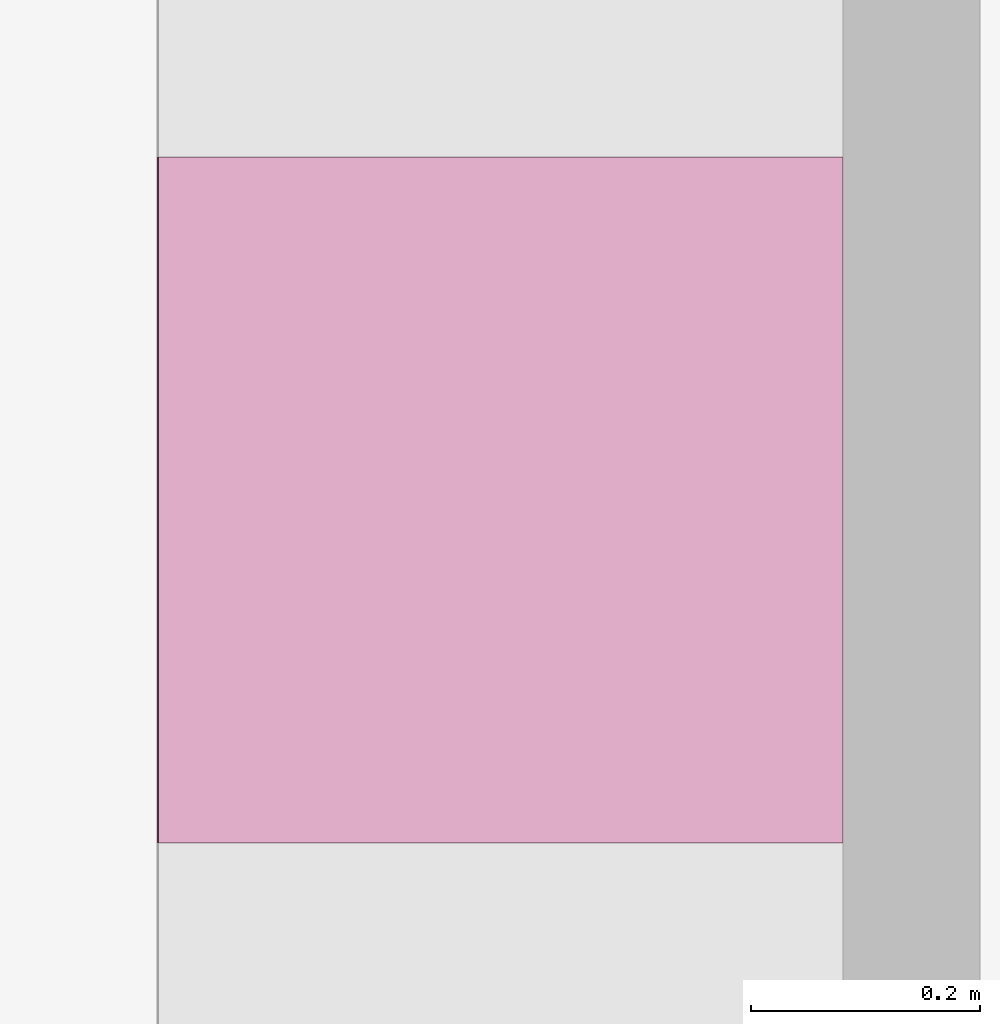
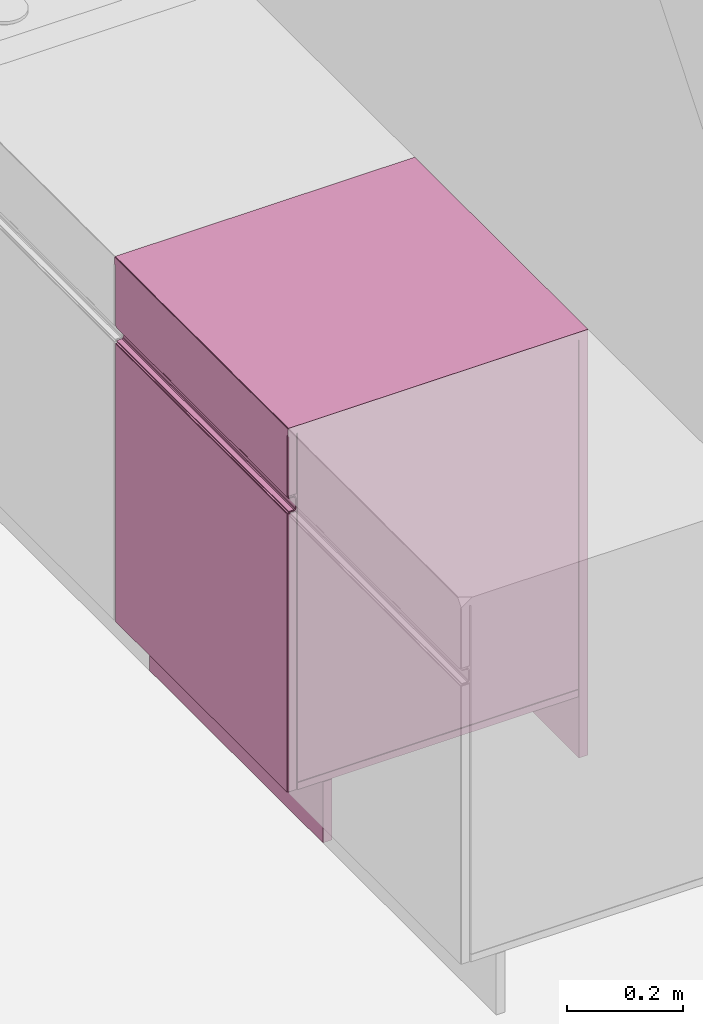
"""IFC4 building model written with IfcOpenShell, lengths in metres."""

from ifc_helpers import new_model, entity, si_unit, converted_unit, derived_unit, frame, origin, place, context, subcontext, project, spatial, faceted_brep, element, save


model = new_model("IFC4")

# Units and contexts
model_context = context("Model", 3, precision=1e-05, world=origin())
body_context = subcontext(model_context, "Body", "Model", "MODEL_VIEW")
ifc_project = project(units=[si_unit("LENGTHUNIT", "METRE"), si_unit("AREAUNIT", "SQUARE_METRE"), si_unit("VOLUMEUNIT", "CUBIC_METRE"), si_unit("MASSUNIT", "GRAM", prefix="KILO"), converted_unit("PLANEANGLEUNIT", "DEGREE", entity("IfcPlaneAngleMeasure", 0.0174532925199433), si_unit("PLANEANGLEUNIT", "RADIAN"), dimensions=[0, 0, 0, 0, 0, 0, 0]), derived_unit("THERMALTRANSMITTANCEUNIT", [(si_unit("POWERUNIT", "WATT"), 1), (si_unit("THERMODYNAMICTEMPERATUREUNIT", "KELVIN"), -1), (si_unit("LENGTHUNIT", "METRE"), -2)]), derived_unit("VOLUMETRICFLOWRATEUNIT", [(si_unit("LENGTHUNIT", "METRE"), 3), (converted_unit("TIMEUNIT", "hour", entity("IfcTimeMeasure", 3600.0), si_unit("TIMEUNIT", "SECOND"), dimensions=[0, 0, 1, 0, 0, 0, 0]), -1), (si_unit("LENGTHUNIT", "METRE"), -1)])], contexts=[model_context])

# Building, storeys
building_placement = place(None, origin())
building = spatial("IfcBuilding", under=ifc_project, at=building_placement, Name="HABITATGE PLURIFAMILIAR", CompositionType="ELEMENT")
storey_1_placement = place(building_placement, frame((0.0, 0.0, 3.35)))
storey_1 = spatial("IfcBuildingStorey", under=building, at=storey_1_placement, Name="PLANTA  ALTELL", CompositionType="ELEMENT", Elevation=3.35)
storey_2_placement = place(storey_1_placement, origin())
storey_2 = spatial("IfcBuildingStorey", under=storey_1, at=storey_2_placement, Name="NOU", CompositionType="PARTIAL")

# Furniture
furniture_placement = place(storey_2_placement, frame((406.271931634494, 20.9195914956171, 0.0)))
element("IfcFurniture", 1, at=furniture_placement, inside=storey_2, Name="Taulells_PA", context=body_context, shape_type="Brep", body=[
    faceted_brep([(0.600000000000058, 0.0, 0.0), (0.600000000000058, 0.600000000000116, 0.0), (0.582000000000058, 0.600000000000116, 0.0), (0.582000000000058, 0.0, 0.0), (0.582000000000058, 0.0, 0.883800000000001), (0.582000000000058, 0.600000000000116, 0.883800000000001), (0.600000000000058, 0.600000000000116, 0.883800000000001), (0.600000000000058, 0.0, 0.883800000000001)], [[[0, 1, 2, 3]], [[4, 5, 6, 7]], [[3, 4, 7, 0]], [[2, 5, 4, 3]], [[1, 6, 5, 2]], [[0, 7, 6, 1]]], orient=[[False], [False], [False], [False], [False], [False]]),
    faceted_brep([(0.0180000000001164, 0.00200000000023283, 0.755800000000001), (0.00200000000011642, 0.00200000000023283, 0.755800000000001), (0.00200000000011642, 0.00200000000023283, 0.883800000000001), (0.0180000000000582, 0.00200000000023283, 0.883800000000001), (0.00165270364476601, 0.00203038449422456, 0.755452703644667), (0.00165270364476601, 0.00203038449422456, 0.883800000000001), (0.00131595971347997, 0.00212061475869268, 0.75511595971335), (0.00131595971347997, 0.00212061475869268, 0.883800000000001), (0.00100000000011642, 0.00226794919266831, 0.754800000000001), (0.00100000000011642, 0.00226794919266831, 0.883800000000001), (0.000714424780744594, 0.00246791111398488, 0.754514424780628), (0.000714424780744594, 0.00246791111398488, 0.883800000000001), (0.000591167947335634, 0.00259116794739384, 0.754391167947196), (0.000467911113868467, 0.0027144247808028, 0.754514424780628), (0.000467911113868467, 0.0027144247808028, 0.883800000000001), (0.000267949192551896, 0.00300000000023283, 0.754800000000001), (0.000267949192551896, 0.00300000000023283, 0.883800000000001), (0.000120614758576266, 0.00331595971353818, 0.75511595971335), (0.000120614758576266, 0.00331595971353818, 0.883800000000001), (3.03844941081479e-05, 0.00365270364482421, 0.755452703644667), (3.03844941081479e-05, 0.00365270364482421, 0.883800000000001), (0.0, 0.00400000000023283, 0.755800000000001), (0.0, 0.00400000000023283, 0.883800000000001), (0.0, 0.596000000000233, 0.755800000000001), (0.0, 0.596000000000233, 0.883800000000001), (0.00200000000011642, 0.598000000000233, 0.755800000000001), (0.0180000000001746, 0.598000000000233, 0.755800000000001), (0.0180000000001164, 0.598000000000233, 0.883800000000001), (0.00200000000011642, 0.598000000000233, 0.883800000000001), (0.00165270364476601, 0.597969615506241, 0.883800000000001), (0.00165270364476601, 0.597969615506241, 0.755452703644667), (0.00131595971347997, 0.597879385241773, 0.883800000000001), (0.00131595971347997, 0.597879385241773, 0.75511595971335), (0.00100000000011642, 0.597732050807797, 0.883800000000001), (0.00100000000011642, 0.597732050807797, 0.754800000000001), (0.000714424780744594, 0.597532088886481, 0.883800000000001), (0.000714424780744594, 0.597532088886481, 0.754514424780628), (0.000467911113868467, 0.597285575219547, 0.883800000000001), (0.000467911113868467, 0.597285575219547, 0.754514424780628), (0.000591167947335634, 0.597408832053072, 0.754391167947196), (0.000267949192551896, 0.597000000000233, 0.883800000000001), (0.000267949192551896, 0.597000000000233, 0.754800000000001), (0.000120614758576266, 0.596684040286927, 0.883800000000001), (0.000120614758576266, 0.596684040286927, 0.75511595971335), (3.03844941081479e-05, 0.596347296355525, 0.883800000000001), (3.03844941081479e-05, 0.596347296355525, 0.755452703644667), (0.0180000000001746, 0.596000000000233, 0.753800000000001), (0.00200000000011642, 0.596000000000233, 0.753800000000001), (0.00200000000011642, 0.00400000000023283, 0.753800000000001), (0.0180000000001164, 0.00400000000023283, 0.753800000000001), (0.00165270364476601, 0.00365270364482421, 0.753830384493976), (0.0180000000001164, 0.00365270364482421, 0.753830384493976), (0.00131595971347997, 0.00331595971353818, 0.753920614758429), (0.0180000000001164, 0.00331595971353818, 0.753920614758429), (0.00100000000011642, 0.00300000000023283, 0.754067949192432), (0.0180000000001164, 0.00300000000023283, 0.754067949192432), (0.000714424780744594, 0.0027144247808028, 0.754267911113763), (0.0180000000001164, 0.0027144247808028, 0.754267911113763), (0.0180000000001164, 0.00246791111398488, 0.754514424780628), (0.0180000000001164, 0.00226794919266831, 0.754800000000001), (0.0180000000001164, 0.00212061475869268, 0.75511595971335), (0.0180000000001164, 0.00203038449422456, 0.755452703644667), (0.00165270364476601, 0.596347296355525, 0.753830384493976), (0.00131595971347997, 0.596684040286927, 0.753920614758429), (0.00100000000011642, 0.597000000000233, 0.754067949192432), (0.000714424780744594, 0.597285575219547, 0.754267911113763), (0.0180000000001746, 0.596347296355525, 0.753830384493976), (0.0180000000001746, 0.596684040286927, 0.753920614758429), (0.0180000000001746, 0.597000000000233, 0.754067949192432), (0.0180000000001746, 0.597285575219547, 0.754267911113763), (0.0180000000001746, 0.597532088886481, 0.754514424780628), (0.0180000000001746, 0.597732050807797, 0.754800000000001), (0.0180000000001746, 0.597879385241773, 0.75511595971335), (0.0180000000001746, 0.597969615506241, 0.755452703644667)], [[[0, 1, 2, 3]], [[2, 1, 4, 5]], [[5, 4, 6, 7]], [[7, 6, 8, 9]], [[9, 8, 10, 11]], [[11, 10, 12, 13, 14]], [[14, 13, 15, 16]], [[16, 15, 17, 18]], [[18, 17, 19, 20]], [[20, 19, 21, 22]], [[22, 21, 23, 24]], [[25, 26, 27, 28]], [[29, 30, 25, 28]], [[31, 32, 30, 29]], [[33, 34, 32, 31]], [[35, 36, 34, 33]], [[37, 38, 39, 36, 35]], [[40, 41, 38, 37]], [[42, 43, 41, 40]], [[44, 45, 43, 42]], [[24, 23, 45, 44]], [[46, 47, 48, 49]], [[49, 48, 50, 51]], [[51, 50, 52, 53]], [[53, 52, 54, 55]], [[55, 54, 56, 57]], [[57, 56, 12, 10, 58]], [[58, 10, 8, 59]], [[59, 8, 6, 60]], [[60, 6, 4, 61]], [[61, 4, 1, 0]], [[47, 62, 50, 48]], [[62, 63, 52, 50]], [[63, 64, 54, 52]], [[64, 65, 56, 54]], [[65, 39, 38, 13, 12, 56]], [[38, 41, 15, 13]], [[41, 43, 17, 15]], [[43, 45, 19, 17]], [[45, 23, 21, 19]], [[66, 62, 47, 46]], [[67, 63, 62, 66]], [[68, 64, 63, 67]], [[69, 65, 64, 68]], [[70, 36, 39, 65, 69]], [[71, 34, 36, 70]], [[72, 32, 34, 71]], [[73, 30, 32, 72]], [[26, 25, 30, 73]], [[27, 26, 73, 72, 71, 70, 69, 68, 67, 66, 46, 49, 51, 53, 55, 57, 58, 59, 60, 61, 0, 3]], [[2, 5, 7, 9, 11, 14, 16, 18, 20, 22, 24, 44, 42, 40, 37, 35, 33, 31, 29, 28, 27, 3]]], orient=[[False], [False], [False], [False], [False], [False], [False], [False], [False], [False], [False], [False], [False], [False], [False], [False], [False], [False], [False], [False], [False], [False], [False], [False], [False], [False], [False], [False], [False], [False], [False], [False], [False], [False], [False], [False], [False], [False], [False], [False], [False], [False], [False], [False], [False], [False], [False], [False], [False], [False], [False]]),
    faceted_brep([(0.0180000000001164, 0.00200000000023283, 0.130000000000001), (0.00200000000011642, 0.00200000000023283, 0.130000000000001), (0.00200000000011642, 0.00200000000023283, 0.716800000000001), (0.0180000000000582, 0.00200000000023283, 0.716800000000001), (0.00165270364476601, 0.00203038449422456, 0.130000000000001), (0.00165270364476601, 0.00203038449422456, 0.717147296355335), (0.00131595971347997, 0.00212061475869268, 0.130000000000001), (0.00131595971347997, 0.00212061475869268, 0.717484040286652), (0.00100000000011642, 0.00226794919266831, 0.130000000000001), (0.00100000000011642, 0.00226794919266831, 0.717800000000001), (0.000714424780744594, 0.00246791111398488, 0.130000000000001), (0.000714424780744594, 0.00246791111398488, 0.718085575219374), (0.000467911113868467, 0.0027144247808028, 0.130000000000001), (0.000467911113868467, 0.0027144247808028, 0.718085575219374), (0.000591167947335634, 0.00259116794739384, 0.718208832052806), (0.000267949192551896, 0.00300000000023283, 0.130000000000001), (0.000267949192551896, 0.00300000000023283, 0.717800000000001), (0.000120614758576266, 0.00331595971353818, 0.130000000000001), (0.000120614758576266, 0.00331595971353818, 0.717484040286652), (3.03844941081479e-05, 0.00365270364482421, 0.130000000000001), (3.03844941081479e-05, 0.00365270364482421, 0.717147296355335), (0.0, 0.00400000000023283, 0.130000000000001), (0.0, 0.00400000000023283, 0.716800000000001), (0.0, 0.596000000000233, 0.130000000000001), (0.0, 0.596000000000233, 0.716800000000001), (0.00200000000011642, 0.596000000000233, 0.718800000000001), (0.0180000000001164, 0.596000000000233, 0.718800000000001), (0.0180000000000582, 0.00400000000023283, 0.718800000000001), (0.00200000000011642, 0.00400000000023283, 0.718800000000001), (0.00165270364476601, 0.00365270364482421, 0.718769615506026), (0.00165270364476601, 0.596347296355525, 0.718769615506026), (0.00131595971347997, 0.00331595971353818, 0.718679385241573), (0.00131595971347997, 0.596684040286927, 0.718679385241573), (0.00100000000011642, 0.00300000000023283, 0.71853205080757), (0.00100000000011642, 0.597000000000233, 0.71853205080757), (0.000714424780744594, 0.0027144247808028, 0.718332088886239), (0.000714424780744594, 0.597285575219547, 0.718332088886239), (0.000467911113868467, 0.597285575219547, 0.718085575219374), (0.000591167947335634, 0.597408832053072, 0.718208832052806), (0.000267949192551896, 0.597000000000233, 0.717800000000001), (0.000120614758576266, 0.596684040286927, 0.717484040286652), (3.03844941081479e-05, 0.596347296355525, 0.717147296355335), (0.0180000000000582, 0.00365270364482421, 0.718769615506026), (0.0180000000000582, 0.00331595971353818, 0.718679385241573), (0.0180000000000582, 0.00300000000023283, 0.71853205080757), (0.0180000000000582, 0.0027144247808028, 0.718332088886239), (0.0180000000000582, 0.00246791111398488, 0.718085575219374), (0.0180000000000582, 0.00226794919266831, 0.717800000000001), (0.0180000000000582, 0.00212061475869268, 0.717484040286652), (0.0180000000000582, 0.00203038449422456, 0.717147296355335), (0.00200000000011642, 0.598000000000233, 0.130000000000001), (0.0180000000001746, 0.598000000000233, 0.130000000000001), (0.0180000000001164, 0.598000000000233, 0.716800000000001), (0.00200000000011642, 0.598000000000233, 0.716800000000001), (0.0180000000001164, 0.596347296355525, 0.718769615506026), (0.0180000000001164, 0.596684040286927, 0.718679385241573), (0.0180000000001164, 0.597000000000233, 0.71853205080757), (0.0180000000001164, 0.597285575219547, 0.718332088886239), (0.000714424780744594, 0.597532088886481, 0.718085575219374), (0.0180000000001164, 0.597532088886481, 0.718085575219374), (0.00100000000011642, 0.597732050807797, 0.717800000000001), (0.0180000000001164, 0.597732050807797, 0.717800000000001), (0.00131595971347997, 0.597879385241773, 0.717484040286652), (0.0180000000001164, 0.597879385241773, 0.717484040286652), (0.00165270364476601, 0.597969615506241, 0.717147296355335), (0.0180000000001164, 0.597969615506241, 0.717147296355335), (0.00165270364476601, 0.597969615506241, 0.130000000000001), (0.00131595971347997, 0.597879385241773, 0.130000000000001), (0.00100000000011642, 0.597732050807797, 0.130000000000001), (0.000714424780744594, 0.597532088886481, 0.130000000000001), (0.000467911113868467, 0.597285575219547, 0.130000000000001), (0.000267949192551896, 0.597000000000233, 0.130000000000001), (0.000120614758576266, 0.596684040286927, 0.130000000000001), (3.03844941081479e-05, 0.596347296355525, 0.130000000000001)], [[[0, 1, 2, 3]], [[2, 1, 4, 5]], [[5, 4, 6, 7]], [[7, 6, 8, 9]], [[9, 8, 10, 11]], [[11, 10, 12, 13, 14]], [[13, 12, 15, 16]], [[16, 15, 17, 18]], [[18, 17, 19, 20]], [[20, 19, 21, 22]], [[22, 21, 23, 24]], [[25, 26, 27, 28]], [[25, 28, 29, 30]], [[30, 29, 31, 32]], [[32, 31, 33, 34]], [[34, 33, 35, 36]], [[36, 35, 14, 13, 37, 38]], [[37, 13, 16, 39]], [[39, 16, 18, 40]], [[40, 18, 20, 41]], [[41, 20, 22, 24]], [[28, 27, 42, 29]], [[29, 42, 43, 31]], [[31, 43, 44, 33]], [[33, 44, 45, 35]], [[35, 45, 46, 11, 14]], [[11, 46, 47, 9]], [[9, 47, 48, 7]], [[7, 48, 49, 5]], [[5, 49, 3, 2]], [[50, 51, 52, 53]], [[26, 25, 30, 54]], [[54, 30, 32, 55]], [[55, 32, 34, 56]], [[56, 34, 36, 57]], [[57, 36, 38, 58, 59]], [[59, 58, 60, 61]], [[61, 60, 62, 63]], [[63, 62, 64, 65]], [[65, 64, 53, 52]], [[53, 64, 66, 50]], [[64, 62, 67, 66]], [[62, 60, 68, 67]], [[60, 58, 69, 68]], [[58, 38, 37, 70, 69]], [[37, 39, 71, 70]], [[39, 40, 72, 71]], [[40, 41, 73, 72]], [[41, 24, 23, 73]], [[3, 49, 48, 47, 46, 45, 44, 43, 42, 27, 26, 54, 55, 56, 57, 59, 61, 63, 65, 52, 51, 0]], [[1, 0, 51, 50, 66, 67, 68, 69, 70, 71, 72, 73, 23, 21, 19, 17, 15, 12, 10, 8, 6, 4]]], orient=[[False], [False], [False], [False], [False], [False], [False], [False], [False], [False], [False], [False], [False], [False], [False], [False], [False], [False], [False], [False], [False], [False], [False], [False], [False], [False], [False], [False], [False], [False], [False], [False], [False], [False], [False], [False], [False], [False], [False], [False], [False], [False], [False], [False], [False], [False], [False], [False], [False], [False], [False]]),
    faceted_brep([(0.0880000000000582, 0.0, 0.0), (0.0880000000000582, 0.600000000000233, 0.0), (0.0700000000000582, 0.600000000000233, 0.0), (0.0700000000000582, 0.0, 0.0), (0.0700000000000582, 0.0, 0.128800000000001), (0.0700000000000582, 0.600000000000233, 0.128800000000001), (0.0880000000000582, 0.600000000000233, 0.128800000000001), (0.0880000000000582, 0.0, 0.128800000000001)], [[[0, 1, 2, 3]], [[4, 5, 6, 7]], [[5, 4, 3, 2]], [[7, 6, 1, 0]], [[2, 1, 6, 5]], [[0, 3, 4, 7]]], orient=[[False], [False], [False], [False], [False], [False]]),
    faceted_brep([(0.0192000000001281, 0.600000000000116, 0.130000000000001), (0.0192000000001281, 0.0, 0.130000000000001), (0.580800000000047, 0.0, 0.130000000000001), (0.580800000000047, 0.600000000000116, 0.130000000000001), (0.580800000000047, 0.600000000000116, 0.145000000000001), (0.580800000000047, 0.0, 0.145000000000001), (0.0192000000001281, 0.0, 0.145000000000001), (0.0192000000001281, 0.600000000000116, 0.145000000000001)], [[[0, 1, 2, 3]], [[4, 5, 6, 7]], [[3, 4, 7, 0]], [[2, 5, 4, 3]], [[1, 6, 5, 2]], [[0, 7, 6, 1]]], orient=[[False], [False], [False], [False], [False], [False]]),
    faceted_brep([(0.580800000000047, 0.600000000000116, 0.146200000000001), (0.0192000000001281, 0.600000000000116, 0.146200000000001), (0.0192000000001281, 0.582000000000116, 0.146200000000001), (0.580800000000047, 0.582000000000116, 0.146200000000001), (0.580800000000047, 0.582000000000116, 0.883800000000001), (0.0192000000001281, 0.582000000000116, 0.883800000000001), (0.0192000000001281, 0.600000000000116, 0.883800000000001), (0.580800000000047, 0.600000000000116, 0.883800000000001)], [[[0, 1, 2, 3]], [[4, 5, 6, 7]], [[3, 4, 7, 0]], [[2, 5, 4, 3]], [[1, 6, 5, 2]], [[0, 7, 6, 1]]], orient=[[False], [False], [False], [False], [False], [False]]),
    faceted_brep([(0.580800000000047, 0.0, 0.146200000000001), (0.580800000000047, 0.0180000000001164, 0.146200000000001), (0.0192000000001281, 0.0180000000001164, 0.146200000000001), (0.0192000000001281, 0.0, 0.146200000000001), (0.580800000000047, 0.0180000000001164, 0.883800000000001), (0.580800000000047, 0.0, 0.883800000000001), (0.0192000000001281, 0.0, 0.883800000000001), (0.0192000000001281, 0.0180000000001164, 0.883800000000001)], [[[0, 1, 2, 3]], [[4, 5, 6, 7]], [[1, 0, 5, 4]], [[2, 1, 4, 7]], [[3, 2, 7, 6]], [[0, 3, 6, 5]]], orient=[[False], [False], [False], [False], [False], [False]]),
    faceted_brep([(0.00250000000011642, 0.598000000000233, 0.749800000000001), (0.00250000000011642, 0.00200000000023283, 0.749800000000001), (0.0109875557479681, 0.00200000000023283, 0.749800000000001), (0.0109875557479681, 0.598000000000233, 0.749800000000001), (0.0129057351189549, 0.00200000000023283, 0.749418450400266), (0.0129057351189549, 0.598000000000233, 0.749418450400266), (0.0145318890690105, 0.00200000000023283, 0.748331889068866), (0.0145318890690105, 0.598000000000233, 0.748331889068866), (0.0156184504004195, 0.00200000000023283, 0.746705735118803), (0.0156184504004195, 0.598000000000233, 0.746705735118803), (0.0160000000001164, 0.00200000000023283, 0.744787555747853), (0.0160000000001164, 0.598000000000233, 0.744787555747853), (0.0160000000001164, 0.00200000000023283, 0.727812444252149), (0.0160000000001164, 0.598000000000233, 0.727812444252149), (0.0156184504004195, 0.00200000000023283, 0.725894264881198), (0.0156184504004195, 0.598000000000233, 0.725894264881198), (0.0145318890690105, 0.00200000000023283, 0.724268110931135), (0.0145318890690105, 0.598000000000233, 0.724268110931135), (0.0129057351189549, 0.00200000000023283, 0.723181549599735), (0.0129057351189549, 0.598000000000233, 0.723181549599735), (0.0109875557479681, 0.00200000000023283, 0.722800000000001), (0.0109875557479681, 0.598000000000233, 0.722800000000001), (0.00250000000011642, 0.00200000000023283, 0.722800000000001), (0.00250000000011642, 0.598000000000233, 0.722800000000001), (0.00250000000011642, 0.00200000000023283, 0.720800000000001), (0.00250000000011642, 0.598000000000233, 0.720800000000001), (0.0109875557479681, 0.00200000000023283, 0.720800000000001), (0.0109875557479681, 0.598000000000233, 0.720800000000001), (0.0136711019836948, 0.00200000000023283, 0.721333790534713), (0.0136711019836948, 0.598000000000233, 0.721333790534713), (0.0159461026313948, 0.00200000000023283, 0.722853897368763), (0.0159461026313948, 0.598000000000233, 0.722853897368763), (0.017466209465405, 0.00200000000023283, 0.725128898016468), (0.017466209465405, 0.598000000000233, 0.725128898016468), (0.0180000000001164, 0.00200000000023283, 0.727812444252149), (0.0180000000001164, 0.598000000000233, 0.727812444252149), (0.0180000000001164, 0.00200000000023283, 0.744787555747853), (0.0180000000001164, 0.598000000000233, 0.744787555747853), (0.017466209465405, 0.00200000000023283, 0.747471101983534), (0.017466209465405, 0.598000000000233, 0.747471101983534), (0.0159461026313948, 0.00200000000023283, 0.749746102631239), (0.0159461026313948, 0.598000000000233, 0.749746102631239), (0.0136711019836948, 0.00200000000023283, 0.751266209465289), (0.0136711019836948, 0.598000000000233, 0.751266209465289), (0.0109875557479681, 0.00200000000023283, 0.751800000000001), (0.0109875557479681, 0.598000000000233, 0.751800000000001), (0.00250000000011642, 0.00200000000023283, 0.751800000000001), (0.00250000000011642, 0.598000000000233, 0.751800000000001)], [[[0, 1, 2, 3]], [[3, 2, 4, 5]], [[5, 4, 6, 7]], [[7, 6, 8, 9]], [[9, 8, 10, 11]], [[11, 10, 12, 13]], [[13, 12, 14, 15]], [[15, 14, 16, 17]], [[17, 16, 18, 19]], [[19, 18, 20, 21]], [[21, 20, 22, 23]], [[23, 22, 24, 25]], [[25, 24, 26, 27]], [[27, 26, 28, 29]], [[29, 28, 30, 31]], [[31, 30, 32, 33]], [[33, 32, 34, 35]], [[35, 34, 36, 37]], [[37, 36, 38, 39]], [[39, 38, 40, 41]], [[41, 40, 42, 43]], [[43, 42, 44, 45]], [[45, 44, 46, 47]], [[47, 46, 1, 0]], [[0, 3, 5, 7, 9, 11, 13, 15, 17, 19, 21, 23, 25, 27, 29, 31, 33, 35, 37, 39, 41, 43, 45, 47]], [[1, 46, 44, 42, 40, 38, 36, 34, 32, 30, 28, 26, 24, 22, 20, 18, 16, 14, 12, 10, 8, 6, 4, 2]]], orient=[[False], [False], [False], [False], [False], [False], [False], [False], [False], [False], [False], [False], [False], [False], [False], [False], [False], [False], [False], [False], [False], [False], [False], [False], [False], [False]]),
    faceted_brep([(0.0, 0.0, 0.883800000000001), (0.0, 0.6, 0.883800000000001), (0.0, 0.6, 0.898000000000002), (0.0, 0.0, 0.898000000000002), (0.6, 0.6, 0.899999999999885), (0.599999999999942, 0.0, 0.899999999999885), (0.00199999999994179, 0.0, 0.900000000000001), (0.002, 0.6, 0.900000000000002), (3.03844939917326e-05, 0.6, 0.898347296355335), (3.03844939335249e-05, 0.0, 0.898347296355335), (0.000120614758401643, 0.6, 0.898684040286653), (0.000120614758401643, 0.0, 0.898684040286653), (0.000267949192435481, 0.6, 0.899000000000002), (0.000267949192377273, 0.0, 0.899000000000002), (0.000467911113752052, 0.6, 0.899285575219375), (0.000467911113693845, 0.0, 0.899285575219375), (0.000714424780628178, 0.6, 0.89953208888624), (0.000714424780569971, 0.0, 0.89953208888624), (0.001, 0.6, 0.89973205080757), (0.000999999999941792, 0.0, 0.89973205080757), (0.00131595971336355, 0.6, 0.899879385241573), (0.00131595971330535, 0.0, 0.899879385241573), (0.00165270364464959, 0.6, 0.899969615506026), (0.00165270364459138, 0.0, 0.899969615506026), (0.6, 0.6, 0.883800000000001), (0.599999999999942, 0.0, 0.883800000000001)], [[[0, 1, 2, 3]], [[4, 5, 6, 7]], [[8, 9, 3, 2]], [[10, 11, 9, 8]], [[12, 13, 11, 10]], [[14, 15, 13, 12]], [[16, 17, 15, 14]], [[18, 19, 17, 16]], [[20, 21, 19, 18]], [[22, 23, 21, 20]], [[7, 6, 23, 22]], [[4, 7, 22, 20, 18, 16, 14, 12, 10, 8, 2, 1, 24]], [[0, 3, 9, 11, 13, 15, 17, 19, 21, 23, 6, 5, 25]], [[4, 24, 25, 5]], [[1, 0, 25, 24]]], orient=[[False], [False], [False], [False], [False], [False], [False], [False], [False], [False], [False], [False], [False], [False], [False]]),
])

save(model, "model.ifc")
